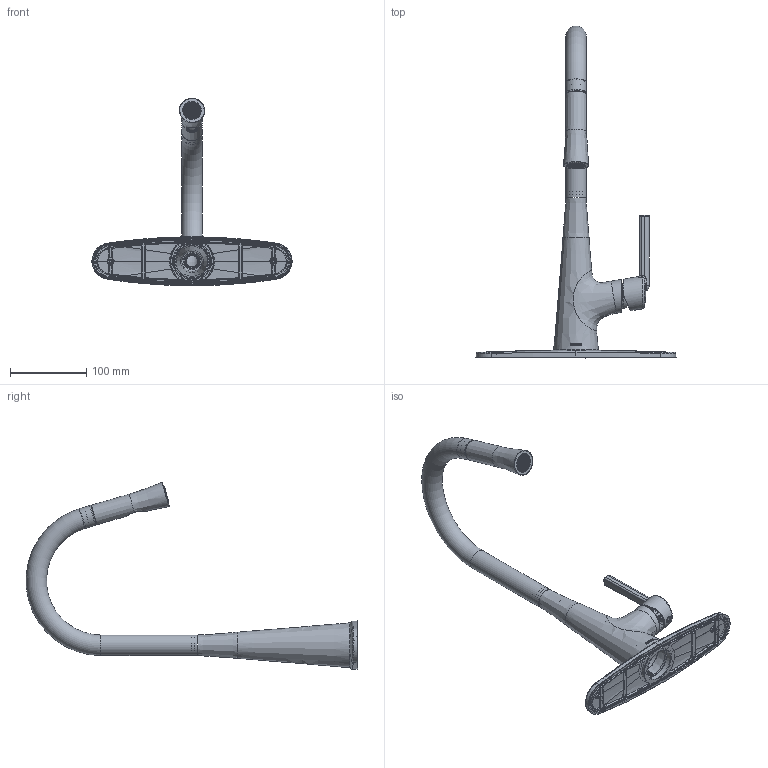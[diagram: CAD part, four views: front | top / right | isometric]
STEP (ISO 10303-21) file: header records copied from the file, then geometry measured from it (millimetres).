
FILE_DESCRIPTION (( 'STEP AP203' ), '1' );
FILE_NAME ('SKU_87918SERIES.STEP', '2026-01-20T06:48:55', ( '' ), ( '' ), 'SwSTEP 2.0', 'SolidWorks 2025', '' );
FILE_SCHEMA (( 'CONFIG_CONTROL_DESIGN' ));
Length unit declared in the file: inch
Products named in the file (1): SKU_87918SERIES
Bounding box: 262.06 x 434.75 x 245.28 mm (x, y, z)
Volume: 218227 mm3; surface area: 212454 mm2
Topology: 9 solids, 9 shells, 2544 faces, 6728 edges, 4166 vertices
Faces by surface type: bspline 716, plane 641, cylinder 605, torus 292, cone 241, sphere 49
Full cylindrical faces by diameter (mm): 2.2 x18, 4.064 x1, 5.156 x2, 5.753 x1, 8.128 x1, 14.74 x1, 15.6 x1, 19.431 x1, 19.555 x2, 22.919 x11, 23.114 x1, 23.571 x2, 23.698 x1, 24.232 x1, 24.58 x1, 24.917 x1, 25.07 x1, 25.603 x1, 26.873 x2, 31.293 x1, 35.585 x1, 42.546 x2, 46.787 x1, 52.934 x1
Entity records: 131120 total; most frequent: CARTESIAN_POINT 76087, ORIENTED_EDGE 12756, DIRECTION 9783, EDGE_CURVE 6378, AXIS2_PLACEMENT_3D 4080, VERTEX_POINT 4029, EDGE_LOOP 2913, FACE_OUTER_BOUND 2656
